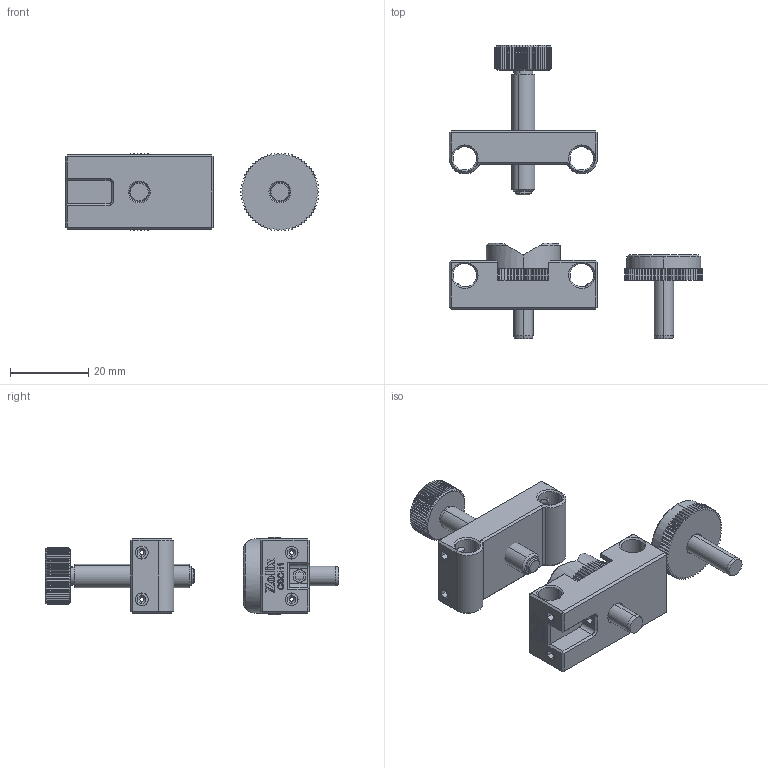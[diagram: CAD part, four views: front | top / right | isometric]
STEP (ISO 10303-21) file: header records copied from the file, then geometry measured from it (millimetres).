
FILE_DESCRIPTION (( 'STEP AP203' ), '1' );
FILE_NAME ('CSCH1.STEP', '2024-06-19T06:28:19', ( '' ), ( '' ), 'SwSTEP 2.0', 'SolidWorks 2021', '' );
FILE_SCHEMA (( 'CONFIG_CONTROL_DESIGN' ));
Length unit declared in the file: millimetre
Products named in the file (1): CSCH1
Bounding box: 65.04 x 75.3 x 19.98 mm (x, y, z)
Surface area: 11866.2 mm2 (no closed solid volume)
Topology: 0 solids, 22 shells, 807 faces, 2887 edges, 2052 vertices
Faces by surface type: plane 527, cylinder 192, cone 82, bspline 6
Entity records: 32593 total; most frequent: CARTESIAN_POINT 8275, ORIENTED_EDGE 4910, DIRECTION 4781, EDGE_CURVE 2887, VERTEX_POINT 2052, VECTOR 1921, LINE 1921, AXIS2_PLACEMENT_3D 1430
